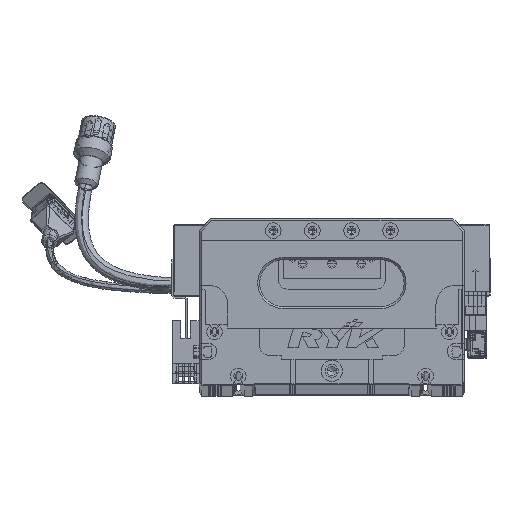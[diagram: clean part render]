
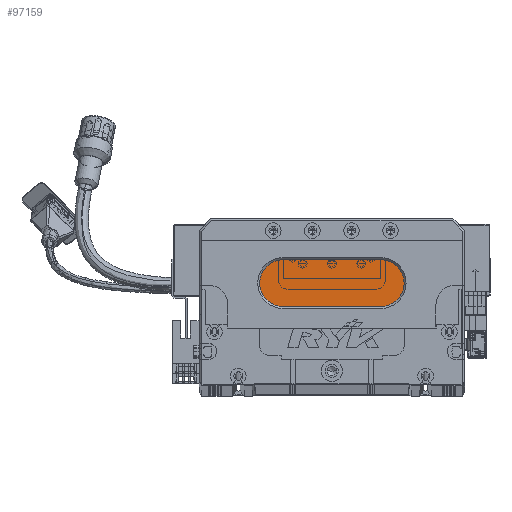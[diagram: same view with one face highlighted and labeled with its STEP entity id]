
A CAD part, top view. The second image highlights one B-rep face of the part: STEP entity #97159.
In plain terms, the highlighted planar face has unit normal (0, 0, 1) as drawn and (0, 0, -1) by its records, which use the part's own axes.
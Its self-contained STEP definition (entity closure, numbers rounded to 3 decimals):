
#417 = VECTOR ( 'NONE', #32947, 1000. ) ;
#6016 = CARTESIAN_POINT ( 'NONE',  ( 43., 40., 13. ) ) ;
#6774 = ORIENTED_EDGE ( 'NONE', *, *, #103937, .T. ) ;
#10408 = CARTESIAN_POINT ( 'NONE',  ( 93., 64., 13. ) ) ;
#11110 = CIRCLE ( 'NONE', #61782, 12. ) ;
#16503 = FACE_OUTER_BOUND ( 'NONE', #67183, .T. ) ;
#17212 = EDGE_CURVE ( 'NONE', #95236, #104078, #11110, .T. ) ;
#18789 = EDGE_CURVE ( 'NONE', #76103, #61930, #67924, .T. ) ;
#20123 = CARTESIAN_POINT ( 'NONE',  ( 43., 52., 13. ) ) ;
#21740 = AXIS2_PLACEMENT_3D ( 'NONE', #24965, #91591, #90172 ) ;
#24965 = CARTESIAN_POINT ( 'NONE',  ( 93., 52., 13. ) ) ;
#30356 = DIRECTION ( 'NONE',  ( 0., 0., -1. ) ) ;
#32947 = DIRECTION ( 'NONE',  ( -1., 0., 0. ) ) ;
#37834 = AXIS2_PLACEMENT_3D ( 'NONE', #137746, #38435, #82595 ) ;
#38435 = DIRECTION ( 'NONE',  ( 0., 0., -1. ) ) ;
#39922 = LINE ( 'NONE', #54508, #417 ) ;
#47196 = VECTOR ( 'NONE', #76070, 1000. ) ;
#50819 = AXIS2_PLACEMENT_3D ( 'NONE', #86476, #30356, #86927 ) ;
#52665 = ORIENTED_EDGE ( 'NONE', *, *, #137001, .T. ) ;
#52880 = ORIENTED_EDGE ( 'NONE', *, *, #135654, .T. ) ;
#54508 = CARTESIAN_POINT ( 'NONE',  ( 93., 40., 13. ) ) ;
#61782 = AXIS2_PLACEMENT_3D ( 'NONE', #20123, #76194, #119811 ) ;
#61930 = VERTEX_POINT ( 'NONE', #117576 ) ;
#67183 = EDGE_LOOP ( 'NONE', ( #52880, #6774, #99941, #52665, #119201 ) ) ;
#67924 = LINE ( 'NONE', #10408, #47196 ) ;
#76070 = DIRECTION ( 'NONE',  ( 1., 0., 0. ) ) ;
#76103 = VERTEX_POINT ( 'NONE', #98595 ) ;
#76194 = DIRECTION ( 'NONE',  ( 0., 0., -1. ) ) ;
#82595 = DIRECTION ( 'NONE',  ( -1., 0., 0. ) ) ;
#83373 = CIRCLE ( 'NONE', #50819, 12. ) ;
#85670 = VERTEX_POINT ( 'NONE', #113379 ) ;
#86476 = CARTESIAN_POINT ( 'NONE',  ( 43., 52., 13. ) ) ;
#86927 = DIRECTION ( 'NONE',  ( -1., 0., 0. ) ) ;
#90172 = DIRECTION ( 'NONE',  ( -1., 0., 0. ) ) ;
#91591 = DIRECTION ( 'NONE',  ( 0., 0., -1. ) ) ;
#95236 = VERTEX_POINT ( 'NONE', #6016 ) ;
#97159 = ADVANCED_FACE ( 'NONE', ( #16503 ), #100743, .T. ) ;
#98595 = CARTESIAN_POINT ( 'NONE',  ( 43., 64., 13. ) ) ;
#99941 = ORIENTED_EDGE ( 'NONE', *, *, #17212, .T. ) ;
#100743 = PLANE ( 'NONE',  #21740 ) ;
#103937 = EDGE_CURVE ( 'NONE', #85670, #95236, #39922, .T. ) ;
#103996 = CIRCLE ( 'NONE', #37834, 12. ) ;
#104078 = VERTEX_POINT ( 'NONE', #134087 ) ;
#113379 = CARTESIAN_POINT ( 'NONE',  ( 93., 40., 13. ) ) ;
#117576 = CARTESIAN_POINT ( 'NONE',  ( 93., 64., 13. ) ) ;
#119201 = ORIENTED_EDGE ( 'NONE', *, *, #18789, .T. ) ;
#119811 = DIRECTION ( 'NONE',  ( -1., 0., 0. ) ) ;
#134087 = CARTESIAN_POINT ( 'NONE',  ( 31., 52., 13. ) ) ;
#135654 = EDGE_CURVE ( 'NONE', #61930, #85670, #103996, .T. ) ;
#137001 = EDGE_CURVE ( 'NONE', #104078, #76103, #83373, .T. ) ;
#137746 = CARTESIAN_POINT ( 'NONE',  ( 93., 52., 13. ) ) ;
